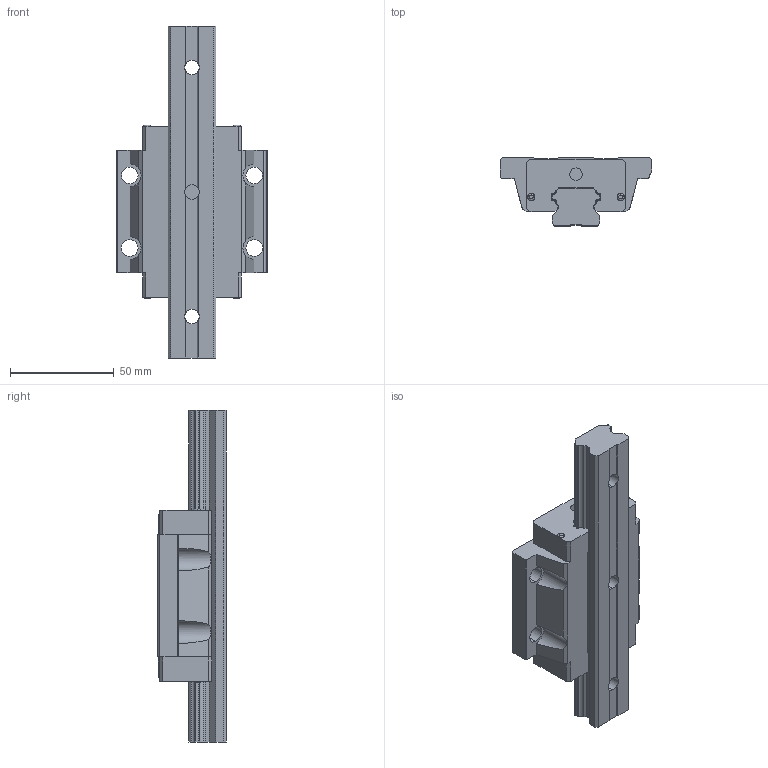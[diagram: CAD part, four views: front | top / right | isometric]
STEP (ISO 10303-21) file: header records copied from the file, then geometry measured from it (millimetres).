
FILE_DESCRIPTION (( 'STEP AP214' ), '1' );
FILE_NAME ('2.1050 Lineaarikelkka EGW25CA.STEP', '2025-09-19T06:24:03', ( '' ), ( '' ), 'SwSTEP 2.0', 'SolidWorks 2025', '' );
FILE_SCHEMA (( 'AUTOMOTIVE_DESIGN' ));
Length unit declared in the file: millimetre
Products named in the file (1): 2.1050 Lineaarikelkka EGW25CA
Bounding box: 73 x 33 x 160 mm (x, y, z)
Volume: 146129.9 mm3; surface area: 36757.4 mm2
Topology: 2 solids, 6 shells, 215 faces, 599 edges, 402 vertices
Faces by surface type: plane 137, cylinder 70, torus 8
Entity records: 9535 total; most frequent: CARTESIAN_POINT 1518, ORIENTED_EDGE 1198, DIRECTION 1155, EDGE_CURVE 599, VERTEX_POINT 402, VECTOR 395, LINE 395, AXIS2_PLACEMENT_3D 380
